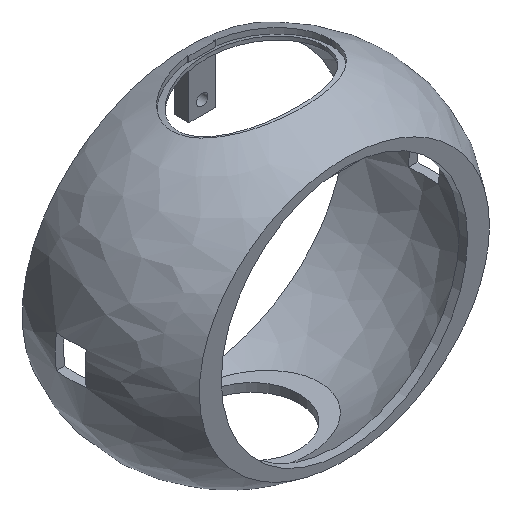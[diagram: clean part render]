
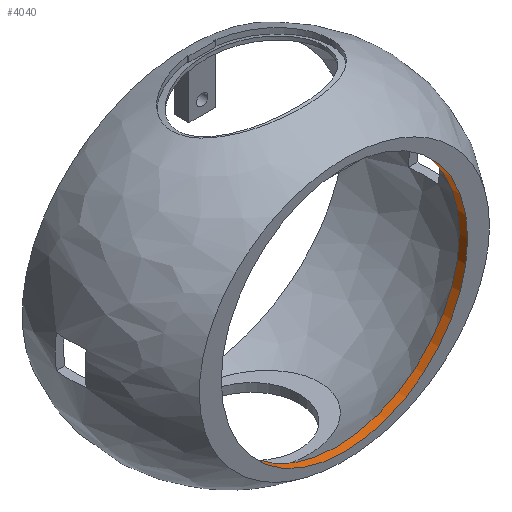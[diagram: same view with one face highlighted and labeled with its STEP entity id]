
A CAD part, isometric view. The second image highlights one B-rep face of the part: STEP entity #4040.
In plain terms, the highlighted cylindrical face has radius 37.087 mm (diameter 74.175 mm), a full revolution.
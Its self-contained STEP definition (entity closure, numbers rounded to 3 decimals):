
#3805 = EDGE_CURVE('',#3806,#3806,#3808,.T.);
#3806 = VERTEX_POINT('',#3807);
#3807 = CARTESIAN_POINT('',(0.,-25.45,205.863));
#3808 = CIRCLE('',#3809,37.088);
#3809 = AXIS2_PLACEMENT_3D('',#3810,#3811,#3812);
#3810 = CARTESIAN_POINT('',(0.,-25.45,168.775));
#3811 = DIRECTION('',(0.,1.,0.));
#3812 = DIRECTION('',(0.,0.,1.));
#4027 = EDGE_CURVE('',#4028,#4028,#4030,.T.);
#4028 = VERTEX_POINT('',#4029);
#4029 = CARTESIAN_POINT('',(0.,-27.95,205.863));
#4030 = CIRCLE('',#4031,37.088);
#4031 = AXIS2_PLACEMENT_3D('',#4032,#4033,#4034);
#4032 = CARTESIAN_POINT('',(0.,-27.95,168.775));
#4033 = DIRECTION('',(0.,1.,0.));
#4034 = DIRECTION('',(0.,0.,1.));
#4040 = ADVANCED_FACE('',(#4041),#4052,.F.);
#4041 = FACE_BOUND('',#4042,.F.);
#4042 = EDGE_LOOP('',(#4043,#4044,#4050,#4051));
#4043 = ORIENTED_EDGE('',*,*,#3805,.F.);
#4044 = ORIENTED_EDGE('',*,*,#4045,.F.);
#4045 = EDGE_CURVE('',#4028,#3806,#4046,.T.);
#4046 = LINE('',#4047,#4048);
#4047 = CARTESIAN_POINT('',(0.,-32.25,205.863));
#4048 = VECTOR('',#4049,1.);
#4049 = DIRECTION('',(0.,1.,0.));
#4050 = ORIENTED_EDGE('',*,*,#4027,.T.);
#4051 = ORIENTED_EDGE('',*,*,#4045,.T.);
#4052 = CYLINDRICAL_SURFACE('',#4053,37.088);
#4053 = AXIS2_PLACEMENT_3D('',#4054,#4055,#4056);
#4054 = CARTESIAN_POINT('',(0.,-32.25,168.775));
#4055 = DIRECTION('',(0.,1.,0.));
#4056 = DIRECTION('',(0.,0.,1.));
